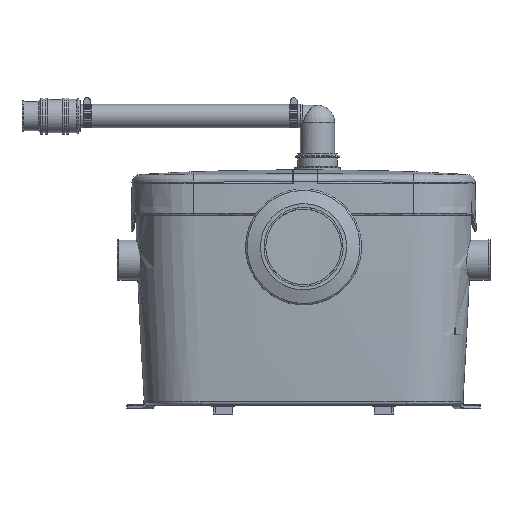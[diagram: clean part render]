
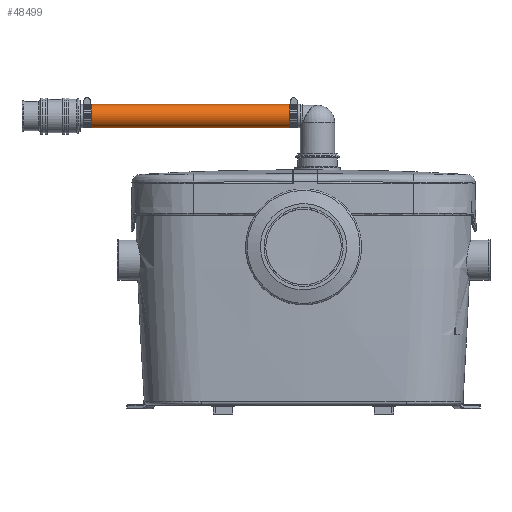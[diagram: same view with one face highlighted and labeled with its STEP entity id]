
A CAD part, top view. The second image highlights one B-rep face of the part: STEP entity #48499.
In plain terms, the highlighted cylindrical face has radius 13.25 mm (diameter 26.5 mm), a full revolution.
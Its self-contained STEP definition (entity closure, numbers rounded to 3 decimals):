
#1136 = FACE_OUTER_BOUND ( 'NONE', #39835, .T. ) ;
#1501 = DIRECTION ( 'NONE',  ( 0., -1., 0. ) ) ;
#1582 = DIRECTION ( 'NONE',  ( -1., 0., 0. ) ) ;
#1660 = CARTESIAN_POINT ( 'NONE',  ( -15.72, 329.08, -43.4 ) ) ;
#10267 = CARTESIAN_POINT ( 'NONE',  ( -241.72, 342.33, -43.4 ) ) ;
#14754 = VERTEX_POINT ( 'NONE', #10267 ) ;
#17283 = DIRECTION ( 'NONE',  ( -1., 0., 0. ) ) ;
#18670 = ORIENTED_EDGE ( 'NONE', *, *, #49837, .F. ) ;
#20843 = CYLINDRICAL_SURFACE ( 'NONE', #21607, 13.25 ) ;
#21607 = AXIS2_PLACEMENT_3D ( 'NONE', #42236, #61513, #52150 ) ;
#22536 = EDGE_CURVE ( 'NONE', #31113, #31113, #28654, .T. ) ;
#26773 = FACE_OUTER_BOUND ( 'NONE', #34718, .T. ) ;
#27913 = ORIENTED_EDGE ( 'NONE', *, *, #22536, .T. ) ;
#28654 = CIRCLE ( 'NONE', #31420, 13.25 ) ;
#31113 = VERTEX_POINT ( 'NONE', #33203 ) ;
#31420 = AXIS2_PLACEMENT_3D ( 'NONE', #1660, #1582, #1501 ) ;
#33203 = CARTESIAN_POINT ( 'NONE',  ( -15.72, 315.83, -43.4 ) ) ;
#34718 = EDGE_LOOP ( 'NONE', ( #18670 ) ) ;
#39835 = EDGE_LOOP ( 'NONE', ( #27913 ) ) ;
#42236 = CARTESIAN_POINT ( 'NONE',  ( -3.72, 329.08, -43.4 ) ) ;
#45963 = CARTESIAN_POINT ( 'NONE',  ( -241.72, 329.08, -43.4 ) ) ;
#48499 = ADVANCED_FACE ( 'NONE', ( #26773, #1136 ), #20843, .T. ) ;
#49837 = EDGE_CURVE ( 'NONE', #14754, #14754, #58039, .T. ) ;
#50801 = DIRECTION ( 'NONE',  ( 0., 1., 0. ) ) ;
#52150 = DIRECTION ( 'NONE',  ( 0., 0.775, 0.632 ) ) ;
#58039 = CIRCLE ( 'NONE', #59344, 13.25 ) ;
#59344 = AXIS2_PLACEMENT_3D ( 'NONE', #45963, #17283, #50801 ) ;
#61513 = DIRECTION ( 'NONE',  ( -1., 0., 0. ) ) ;
